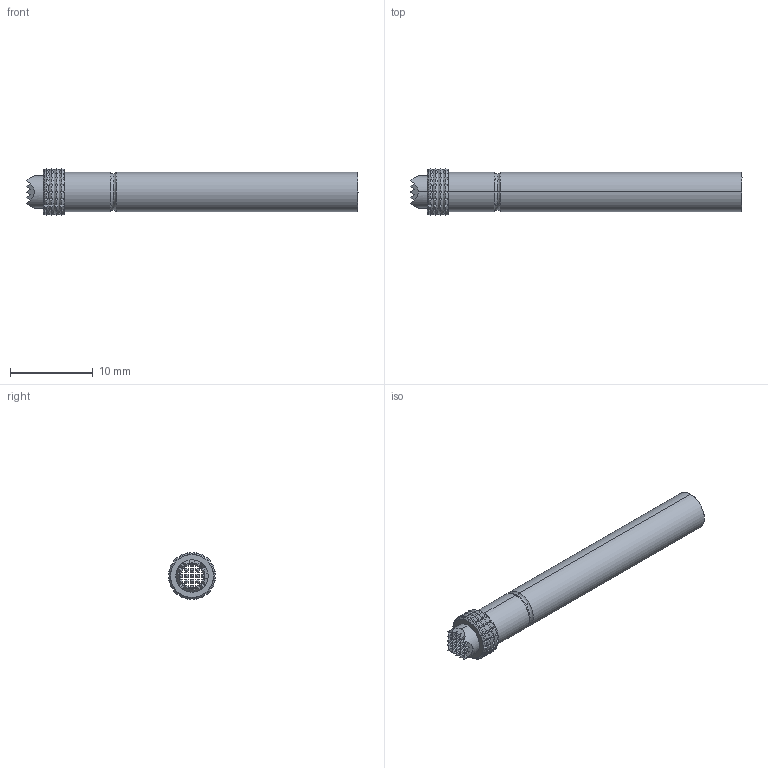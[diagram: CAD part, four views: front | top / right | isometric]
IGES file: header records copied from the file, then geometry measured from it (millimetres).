
Start section: SolidWorks IGES file using analytic representation for surfaces
Global section: file name: O:\PYLON\IGES FILES\P4301\P4301-1W REC'D.IGS; native system: SolidWorks 2015; preprocessor: SolidWorks 2015; author: kgolden; date: 171020.123225; units: inch
Bounding box: 40.21 x 5.7 x 5.7 mm (x, y, z)
Surface area: 1151.4 mm2 (no closed solid volume)
Topology: 0 solids, 0 shells, 481 faces, 2477 edges, 2477 vertices
Faces by surface type: bspline 288, revolution 193
